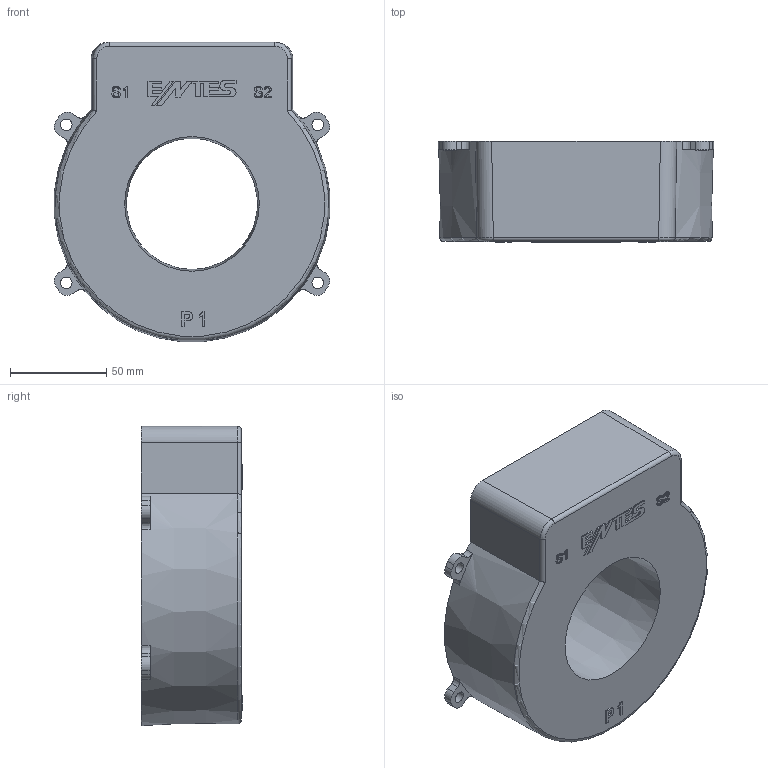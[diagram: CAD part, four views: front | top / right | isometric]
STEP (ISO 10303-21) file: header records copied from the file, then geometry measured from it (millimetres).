
FILE_DESCRIPTION(/* description */ (''),/* implementation_level */ '2;1');
FILE_NAME(/* name */ 'OG Akim Trafosu Pazarlama Dosyası.stp',/* time_stamp */ '2022-12-01T11:55:13+03:00',/* author */ (''),/* organization */ (''),/* preprocessor_version */ 'ST-DEVELOPER v16.7',/* originating_system */ 'SIEMENS PLM Software NX 1915',/* authorisation */ '');
FILE_SCHEMA (('AP203_CONFIGURATION_CONTROLLED_3D_DESIGN_OF_MECHANICAL_PARTS_AND_ASSEMBLIES_MIM_LF { 1 0 10303 403 2 1 2}'));
Products named in the file (1): OG Akim Trafosu Pazarlama Dosyası
Bounding box: 143.24 x 52.6 x 155.66 mm (x, y, z)
Volume: 695444.3 mm3; surface area: 96976.3 mm2
Topology: 1 solids, 2 shells, 2692 faces, 6826 edges, 4551 vertices
Faces by surface type: plane 2505, cylinder 125, extrusion 37, bspline 16, cone 8, torus 1
Full cylindrical faces by diameter (mm): 6 x4
Entity records: 81852 total; most frequent: CARTESIAN_POINT 16258, ORIENTED_EDGE 13628, DIRECTION 12705, EDGE_CURVE 6814, VECTOR 5989, LINE 5952, VERTEX_POINT 4545, AXIS2_PLACEMENT_3D 3358
